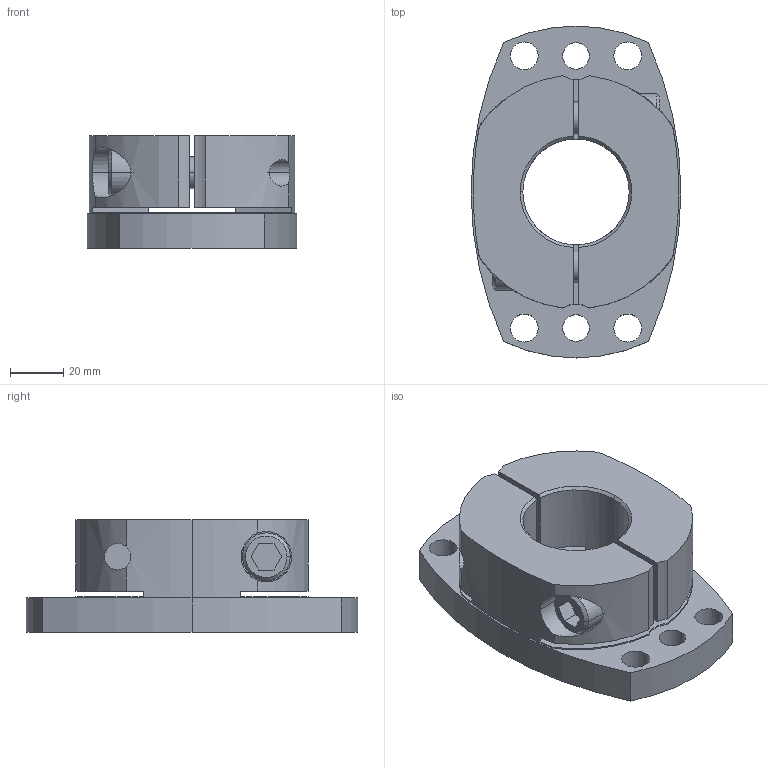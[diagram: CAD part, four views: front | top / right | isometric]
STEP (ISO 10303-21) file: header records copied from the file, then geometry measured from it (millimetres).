
FILE_DESCRIPTION((''),'2;1');
FILE_NAME('SHDB-125B-40.stp','2026-01-28T08:49:15',(''),(''),'AutoCAD STEP 2000i','AutoCAD 2000i',', , ');
FILE_SCHEMA(('CONFIG_CONTROL_DESIGN'));
Length unit declared in the file: millimetre
Products named in the file (2): SHDB-125B-25; 忣兜1
Assembly tree (1 placements, depth 2):
  SHDB-125B-25
    忣兜1
Bounding box: 79 x 125 x 42.5 mm (x, y, z)
Volume: 204407.3 mm3; surface area: 45887.8 mm2
Topology: 1 solids, 1 shells, 102 faces, 280 edges, 184 vertices
Faces by surface type: cylinder 58, plane 34, cone 10
Entity records: 3699 total; most frequent: CARTESIAN_POINT 872, DIRECTION 602, ORIENTED_EDGE 560, EDGE_CURVE 280, AXIS2_PLACEMENT_3D 238, VERTEX_POINT 184, CIRCLE 134, VECTOR 126
